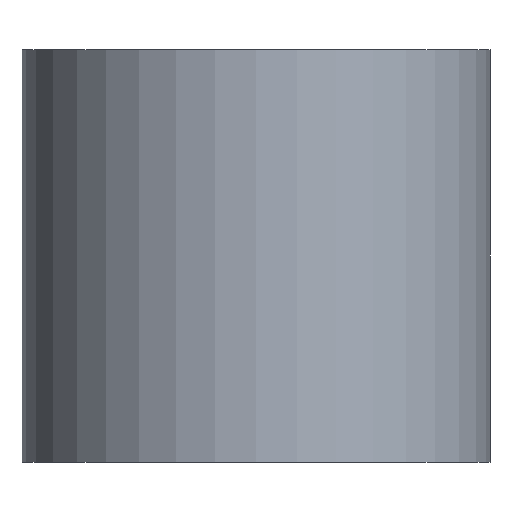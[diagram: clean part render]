
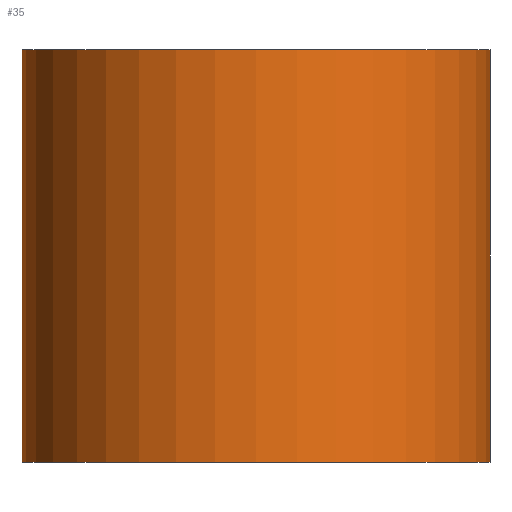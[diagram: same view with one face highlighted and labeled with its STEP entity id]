
A CAD part, front view. The second image highlights one B-rep face of the part: STEP entity #35.
In plain terms, the highlighted cylindrical face has radius 3.4 mm (diameter 6.8 mm), a full revolution.
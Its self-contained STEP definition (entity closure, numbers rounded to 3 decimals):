
#35 = ADVANCED_FACE('',(#36),#49,.T.);
#36 = FACE_BOUND('',#37,.T.);
#37 = EDGE_LOOP('',(#38,#72,#95,#122));
#38 = ORIENTED_EDGE('',*,*,#39,.F.);
#39 = EDGE_CURVE('',#40,#40,#42,.T.);
#40 = VERTEX_POINT('',#41);
#41 = CARTESIAN_POINT('',(-18.1,-32.,18.));
#42 = SURFACE_CURVE('',#43,(#48,#60),.PCURVE_S1.);
#43 = CIRCLE('',#44,3.4);
#44 = AXIS2_PLACEMENT_3D('',#45,#46,#47);
#45 = CARTESIAN_POINT('',(-21.5,-32.,18.));
#46 = DIRECTION('',(0.,0.,1.));
#47 = DIRECTION('',(1.,0.,0.));
#48 = PCURVE('',#49,#54);
#49 = CYLINDRICAL_SURFACE('',#50,3.4);
#50 = AXIS2_PLACEMENT_3D('',#51,#52,#53);
#51 = CARTESIAN_POINT('',(-21.5,-32.,18.));
#52 = DIRECTION('',(0.,0.,1.));
#53 = DIRECTION('',(1.,0.,-0.));
#54 = DEFINITIONAL_REPRESENTATION('',(#55),#59);
#55 = LINE('',#56,#57);
#56 = CARTESIAN_POINT('',(0.,0.));
#57 = VECTOR('',#58,1.);
#58 = DIRECTION('',(1.,0.));
#59 = ( GEOMETRIC_REPRESENTATION_CONTEXT(2) 
PARAMETRIC_REPRESENTATION_CONTEXT() REPRESENTATION_CONTEXT('2D SPACE',''
  ) );
#60 = PCURVE('',#61,#66);
#61 = PLANE('',#62);
#62 = AXIS2_PLACEMENT_3D('',#63,#64,#65);
#63 = CARTESIAN_POINT('',(-21.5,-32.,18.));
#64 = DIRECTION('',(0.,0.,1.));
#65 = DIRECTION('',(1.,0.,0.));
#66 = DEFINITIONAL_REPRESENTATION('',(#67),#71);
#67 = CIRCLE('',#68,3.4);
#68 = AXIS2_PLACEMENT_2D('',#69,#70);
#69 = CARTESIAN_POINT('',(0.,0.));
#70 = DIRECTION('',(1.,0.));
#71 = ( GEOMETRIC_REPRESENTATION_CONTEXT(2) 
PARAMETRIC_REPRESENTATION_CONTEXT() REPRESENTATION_CONTEXT('2D SPACE',''
  ) );
#72 = ORIENTED_EDGE('',*,*,#73,.T.);
#73 = EDGE_CURVE('',#40,#74,#76,.T.);
#74 = VERTEX_POINT('',#75);
#75 = CARTESIAN_POINT('',(-18.1,-32.,12.));
#76 = SEAM_CURVE('',#77,(#81,#88),.PCURVE_S1.);
#77 = LINE('',#78,#79);
#78 = CARTESIAN_POINT('',(-18.1,-32.,18.));
#79 = VECTOR('',#80,1.);
#80 = DIRECTION('',(-0.,-0.,-1.));
#81 = PCURVE('',#49,#82);
#82 = DEFINITIONAL_REPRESENTATION('',(#83),#87);
#83 = LINE('',#84,#85);
#84 = CARTESIAN_POINT('',(6.283,0.));
#85 = VECTOR('',#86,1.);
#86 = DIRECTION('',(0.,-1.));
#87 = ( GEOMETRIC_REPRESENTATION_CONTEXT(2) 
PARAMETRIC_REPRESENTATION_CONTEXT() REPRESENTATION_CONTEXT('2D SPACE',''
  ) );
#88 = PCURVE('',#49,#89);
#89 = DEFINITIONAL_REPRESENTATION('',(#90),#94);
#90 = LINE('',#91,#92);
#91 = CARTESIAN_POINT('',(0.,0.));
#92 = VECTOR('',#93,1.);
#93 = DIRECTION('',(0.,-1.));
#94 = ( GEOMETRIC_REPRESENTATION_CONTEXT(2) 
PARAMETRIC_REPRESENTATION_CONTEXT() REPRESENTATION_CONTEXT('2D SPACE',''
  ) );
#95 = ORIENTED_EDGE('',*,*,#96,.T.);
#96 = EDGE_CURVE('',#74,#74,#97,.T.);
#97 = SURFACE_CURVE('',#98,(#103,#110),.PCURVE_S1.);
#98 = CIRCLE('',#99,3.4);
#99 = AXIS2_PLACEMENT_3D('',#100,#101,#102);
#100 = CARTESIAN_POINT('',(-21.5,-32.,12.));
#101 = DIRECTION('',(0.,0.,1.));
#102 = DIRECTION('',(1.,0.,-0.));
#103 = PCURVE('',#49,#104);
#104 = DEFINITIONAL_REPRESENTATION('',(#105),#109);
#105 = LINE('',#106,#107);
#106 = CARTESIAN_POINT('',(0.,-6.));
#107 = VECTOR('',#108,1.);
#108 = DIRECTION('',(1.,0.));
#109 = ( GEOMETRIC_REPRESENTATION_CONTEXT(2) 
PARAMETRIC_REPRESENTATION_CONTEXT() REPRESENTATION_CONTEXT('2D SPACE',''
  ) );
#110 = PCURVE('',#111,#116);
#111 = PLANE('',#112);
#112 = AXIS2_PLACEMENT_3D('',#113,#114,#115);
#113 = CARTESIAN_POINT('',(31.5,0.,12.));
#114 = DIRECTION('',(0.,0.,1.));
#115 = DIRECTION('',(1.,0.,-0.));
#116 = DEFINITIONAL_REPRESENTATION('',(#117),#121);
#117 = CIRCLE('',#118,3.4);
#118 = AXIS2_PLACEMENT_2D('',#119,#120);
#119 = CARTESIAN_POINT('',(-53.,-32.));
#120 = DIRECTION('',(1.,0.));
#121 = ( GEOMETRIC_REPRESENTATION_CONTEXT(2) 
PARAMETRIC_REPRESENTATION_CONTEXT() REPRESENTATION_CONTEXT('2D SPACE',''
  ) );
#122 = ORIENTED_EDGE('',*,*,#73,.F.);
